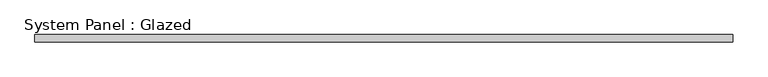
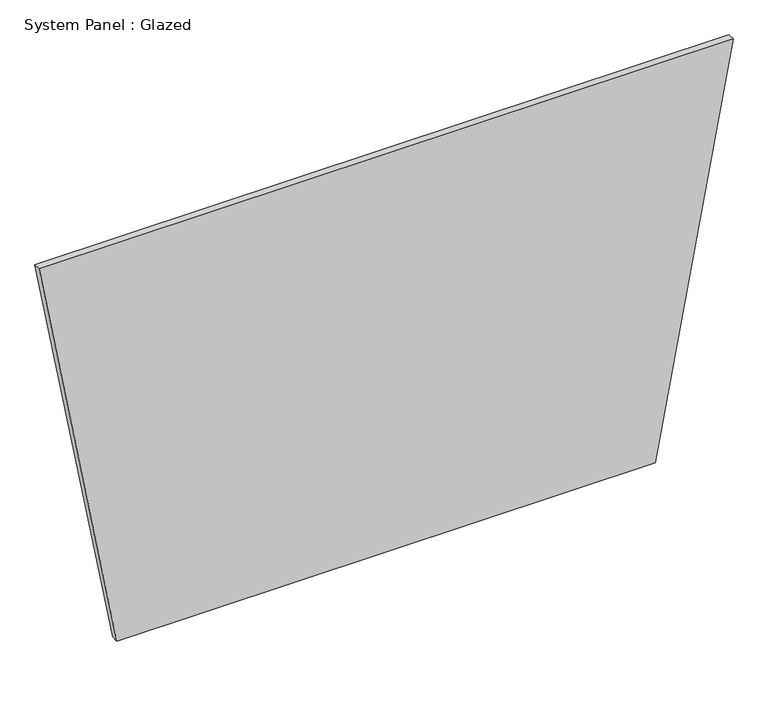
"""IFC4 building model written with IfcOpenShell, lengths in millimetres: plate geometry, System Panel : Glazed."""

from ifc_helpers import new_model, si_unit, frame, origin, place, context, project, spatial, polyline, outline, extrude, source, transform, mapped, element, save


def system_panel_glazed_673ffbb1(model_context):
    return source(origin(), model_context, "Body", "SweptSolid", [
        extrude(outline(polyline([(0.0, -958.6836288), (0.0, 958.6836288), (1498.5528112, 1236.0200164), (1498.5528112, -1236.0200164), (0.0, -958.6836288)])), frame((0.0, -44.45, 0.0), z_axis=(0.0, 1.0, 0.0), x_axis=(0.0, 0.0, 1.0)), (0.0, 0.0, 1.0), 25.4),
    ])


if __name__ == "__main__":
    model = new_model("IFC4")
    model_context = context("Model", 3, world=origin())
    ifc_project = project(units=[si_unit("LENGTHUNIT", "METRE", prefix="MILLI")], contexts=[model_context])
    site = spatial("IfcSite", under=ifc_project)
    building = spatial("IfcBuilding", under=site)
    placement = place(None, origin())
    system_panel_glazed_shape = system_panel_glazed_673ffbb1(model_context)
    element("IfcPlate", 1, ObjectType="System Panel : Glazed", at=placement, inside=building, context=model_context, shape_type="MappedRepresentation", body=[
        mapped(system_panel_glazed_shape, transform((0.0, 0.0, 0.0), x_axis=(1.0, 0.0, 0.0), y_axis=(0.0, 1.0, 0.0), z_axis=(0.0, 0.0, 1.0))),
    ])
    save(model, "model.ifc")
